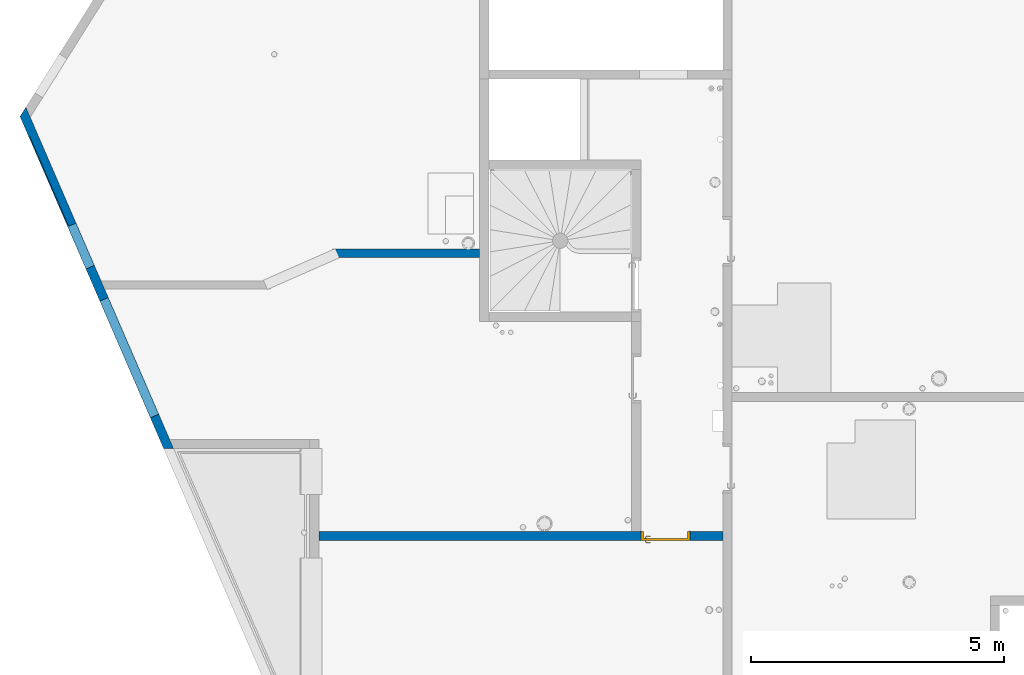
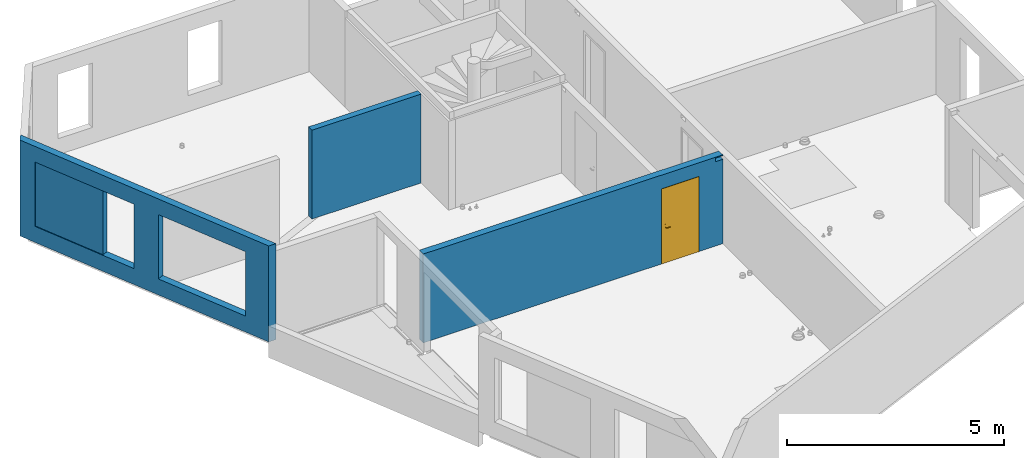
# One storey, part 3 of 24: 3 walls, 1 door, 7 openings.
"""IFC2X3 building model written with IfcOpenShell, lengths in centimetres."""

import ifcopenshell
import ifcopenshell.guid

model = None  # the IFC model being written
_history = None  # IfcOwnerHistory: only IFC2X3 demands one
_inside = {}  # id of a spatial element -> (the spatial element, [elements in it])
_under = {}  # id of a project, library or spatial element -> (it, [spatial elements below it])
_declared = {}  # id of a project -> (the project, [libraries it declares])
_typed = {}  # id of a type object -> (the type object, [elements of that type])
_made_of = {}  # id of a material, layer set ... -> (it, [elements and type objects made of it])


def new_model(schema):
    """Start an empty IFC model of exactly this schema.

    Asked for "IFC4X3", IfcOpenShell would pick the latest addendum, in which some entities
    have other attributes; the version numbers below select the first issue.
    IFC2X3 requires an IfcOwnerHistory on every rooted entity: one is made here for all.
    """
    global model, _history
    if schema == "IFC4X3":
        model = ifcopenshell.file(schema_version=(4, 3, 0, 0))
    else:
        model = ifcopenshell.file(schema=schema)
    _inside.clear()
    _under.clear()
    _declared.clear()
    _typed.clear()
    _made_of.clear()
    _history = None
    if model.schema == "IFC2X3":
        org = make("IfcOrganization", Name="unknown")
        user = make(
            "IfcPersonAndOrganization",
            ThePerson=make("IfcPerson", FamilyName="unknown"),
            TheOrganization=org,
        )
        app = make(
            "IfcApplication",
            ApplicationDeveloper=org,
            Version="unknown",
            ApplicationFullName="unknown",
            ApplicationIdentifier="unknown",
        )
        _history = make(
            "IfcOwnerHistory",
            OwningUser=user,
            OwningApplication=app,
            ChangeAction="ADDED",
            CreationDate=0,
        )
    return model


def make(cls, **values):
    """One entity of the class cls with the attributes given. An attribute that is None is left unset."""
    return model.create_entity(
        cls, **{name: value for name, value in values.items() if value is not None}
    )


def entity(cls, *values):
    """Any entity or typed value of the class cls, its attributes in the order of the schema. None: left unset."""
    e = model.create_entity(cls)
    for i, value in enumerate(values):
        if value is not None:
            e[i] = value
    return e


def rooted(cls, **values):
    """An entity with a GlobalId (a new one), such as an element, a storey or a relation."""
    return make(cls, GlobalId=ifcopenshell.guid.new(), OwnerHistory=_history, **values)


def si_unit(unit_type, name, prefix=None):
    """IfcSIUnit, for example si_unit("LENGTHUNIT", "METRE", prefix="MILLI")."""
    return make("IfcSIUnit", UnitType=unit_type, Prefix=prefix, Name=name)


def converted_unit(unit_type, name, factor, base, dimensions=None, offset=None):
    """IfcConversionBasedUnit, such as the inch: factor (a typed value) times the base unit."""
    return make(
        "IfcConversionBasedUnit"
        if offset is None
        else "IfcConversionBasedUnitWithOffset",
        ConversionOffset=offset,
        Dimensions=None
        if dimensions is None
        else entity("IfcDimensionalExponents", *dimensions),
        UnitType=unit_type,
        Name=name,
        ConversionFactor=make(
            "IfcMeasureWithUnit", ValueComponent=factor, UnitComponent=base
        ),
    )


def derived_unit(unit_type, elements):
    """IfcDerivedUnit: a product of units, each with its exponent."""
    return make(
        "IfcDerivedUnit",
        Elements=[
            make("IfcDerivedUnitElement", Unit=unit, Exponent=power)
            for unit, power in elements
        ],
        UnitType=unit_type,
    )


def assignment(units):
    """IfcUnitAssignment: the units of a project."""
    return None if units is None else make("IfcUnitAssignment", Units=units)


def point(xyz):
    """IfcCartesianPoint."""
    return None if xyz is None else make("IfcCartesianPoint", Coordinates=xyz)


def direction(xyz):
    """IfcDirection."""
    return None if xyz is None else make("IfcDirection", DirectionRatios=xyz)


def frame(location, z_axis=None, x_axis=None):
    """IfcAxis2Placement3D, a coordinate frame: its origin and axes. An axis left out is left unset."""
    return make(
        "IfcAxis2Placement3D",
        Location=point(location),
        Axis=direction(z_axis),
        RefDirection=direction(x_axis),
    )


def frame_2d(location, x_axis=None):
    """IfcAxis2Placement2D, a coordinate frame in the plane: its origin and x axis."""
    return make(
        "IfcAxis2Placement2D", Location=point(location), RefDirection=direction(x_axis)
    )


def origin():
    """The frame at (0, 0, 0) with its axes left unset."""
    return frame((0.0, 0.0, 0.0))


def place(relative_to, where):
    """IfcLocalPlacement: puts the frame where relative to a parent placement (None: the world)."""
    return make(
        "IfcLocalPlacement", PlacementRelTo=relative_to, RelativePlacement=where
    )


def context(
    kind, dimensions, precision=None, world=None, true_north=None, identifier=None
):
    """IfcGeometricRepresentationContext, for example the 3D "Model" context."""
    return make(
        "IfcGeometricRepresentationContext",
        ContextIdentifier=identifier,
        ContextType=kind,
        CoordinateSpaceDimension=dimensions,
        Precision=precision,
        WorldCoordinateSystem=world,
        TrueNorth=true_north,
    )


def subcontext(parent, identifier, kind, view, scale=None):
    """IfcGeometricRepresentationSubContext, for example "Body" below "Model"."""
    return make(
        "IfcGeometricRepresentationSubContext",
        ContextIdentifier=identifier,
        ContextType=kind,
        ParentContext=parent,
        TargetScale=scale,
        TargetView=view,
    )


def project(units=None, contexts=None):
    """IfcProject with its units and contexts."""
    return rooted(
        "IfcProject",
        Name="project",
        RepresentationContexts=contexts,
        UnitsInContext=assignment(units),
    )


def spatial(cls, under=None, at=None, **own):
    """A site, building, storey or space (cls), placed at a placement, below another one or the project."""
    s = rooted(cls, ObjectPlacement=at, **own)
    if under is not None:
        _under.setdefault(under.id(), (under, []))[1].append(s)
    return s


def polyline(points):
    """IfcPolyline through the points."""
    return make("IfcPolyline", Points=[point(p) for p in points])


def profile(cls, at=None, kind="AREA", **sizes):
    """A parametric profile (cls). Its sizes go by their IFC names, for example OverallWidth=200.0."""
    return make(cls, ProfileType=kind, Position=at, **sizes)


def rectangle(**sizes):
    """IfcRectangleProfileDef."""
    return profile("IfcRectangleProfileDef", **sizes)


def outline(outer, holes=None, kind="AREA"):
    """IfcArbitraryClosedProfileDef: a profile drawn as a closed curve; with holes, ...WithVoids."""
    if holes is None:
        return make("IfcArbitraryClosedProfileDef", ProfileType=kind, OuterCurve=outer)
    return make(
        "IfcArbitraryProfileDefWithVoids",
        ProfileType=kind,
        OuterCurve=outer,
        InnerCurves=holes,
    )


def extrude(swept, where, along, depth):
    """IfcExtrudedAreaSolid: the profile swept, set in the frame where, extruded along a direction by depth."""
    return make(
        "IfcExtrudedAreaSolid",
        SweptArea=swept,
        Position=where,
        ExtrudedDirection=direction(along),
        Depth=depth,
    )


def faces_of(points, faces, orient=None, outer=None):
    """IfcFace entities. A face is a list of loops; a loop is a list of indices into points, from 0.

    orient and outer hold one flag for each loop. By default every Orientation is true, the
    first loop of a face is its IfcFaceOuterBound and the others are IfcFaceBound.
    """
    made = []
    for i, loops in enumerate(faces):
        bounds = []
        for j, loop in enumerate(loops):
            is_outer = j == 0 if outer is None else outer[i][j]
            bounds.append(
                make(
                    "IfcFaceOuterBound" if is_outer else "IfcFaceBound",
                    Bound=make("IfcPolyLoop", Polygon=[points[k] for k in loop]),
                    Orientation=True if orient is None else orient[i][j],
                )
            )
        made.append(make("IfcFace", Bounds=bounds))
    return made


def faceted_brep(points, faces, orient=None, outer=None, voids=None):
    """IfcFacetedBrep: a solid bounded by flat faces; with voids (closed shells), ...WithVoids."""
    shared = [point(p) for p in points]
    hull = make("IfcClosedShell", CfsFaces=faces_of(shared, faces, orient, outer))
    if voids is None:
        return make("IfcFacetedBrep", Outer=hull)
    return make(
        "IfcFacetedBrepWithVoids",
        Outer=hull,
        Voids=[
            make(cls, CfsFaces=faces_of(shared, fs, o, b)) for cls, fs, o, b in voids
        ],
    )


def shape(context_of_items, identifier, shape_type, items):
    """IfcShapeRepresentation: the items that make up one representation, for example the "Body"."""
    return make(
        "IfcShapeRepresentation",
        ContextOfItems=context_of_items,
        RepresentationIdentifier=identifier,
        RepresentationType=shape_type,
        Items=items,
    )


def source(mapping_origin, context_of_items, identifier, shape_type, items):
    """IfcRepresentationMap: a shape defined once, which mapped items show again and again."""
    return make(
        "IfcRepresentationMap",
        MappingOrigin=mapping_origin,
        MappedRepresentation=shape(context_of_items, identifier, shape_type, items),
    )


def transform(
    local_origin,
    x_axis=None,
    y_axis=None,
    z_axis=None,
    scale=None,
    scale2=None,
    scale3=None,
    uniform=True,
):
    """IfcCartesianTransformationOperator3D, or its non-uniform kind. x_axis, y_axis, z_axis: its Axis1, 2, 3."""
    if uniform:
        return make(
            "IfcCartesianTransformationOperator3D",
            Axis1=direction(x_axis),
            Axis2=direction(y_axis),
            LocalOrigin=point(local_origin),
            Scale=scale,
            Axis3=direction(z_axis),
        )
    return make(
        "IfcCartesianTransformationOperator3DnonUniform",
        Axis1=direction(x_axis),
        Axis2=direction(y_axis),
        LocalOrigin=point(local_origin),
        Scale=scale,
        Axis3=direction(z_axis),
        Scale2=scale2,
        Scale3=scale3,
    )


def mapped(mapping_source, mapping_target):
    """IfcMappedItem: shows the shape of a source again, moved by a transform."""
    return make(
        "IfcMappedItem", MappingSource=mapping_source, MappingTarget=mapping_target
    )


def material(Name=None, Category=None):
    """IfcMaterial."""
    return make("IfcMaterial", Name=Name, Category=Category)


def material_list(materials):
    """IfcMaterialList."""
    return make("IfcMaterialList", Materials=materials)


def layer(
    of_material, thickness, ventilated=None, Name=None, Category=None, Priority=None
):
    """IfcMaterialLayer: one layer of a wall or slab, of a material (None: an air gap)."""
    return make(
        "IfcMaterialLayer",
        Material=of_material,
        LayerThickness=thickness,
        IsVentilated=ventilated,
        Name=Name,
        Category=Category,
        Priority=Priority,
    )


def layer_set(layers, Name=None):
    """IfcMaterialLayerSet."""
    return make("IfcMaterialLayerSet", MaterialLayers=layers, LayerSetName=Name)


def layer_usage(for_layer_set, set_direction, sense, offset, extent=None):
    """IfcMaterialLayerSetUsage: how a layer set lies in its element."""
    return make(
        "IfcMaterialLayerSetUsage",
        ForLayerSet=for_layer_set,
        LayerSetDirection=set_direction,
        DirectionSense=sense,
        OffsetFromReferenceLine=offset,
        ReferenceExtent=extent,
    )


def made_of(thing, what):
    """Note that an element or type object is made of a material, layer set ...; save() writes the relation."""
    if what is not None:
        _made_of.setdefault(what.id(), (what, []))[1].append(thing)
    return thing


def type_object(cls, material=None, **own):
    """A type object (cls), such as IfcWallType, which elements share."""
    return made_of(rooted(cls, **own), material)


def type_shapes(of_type, sources):
    """Give a type object the sources (RepresentationMaps) that its elements show as mapped items."""
    of_type.RepresentationMaps = sources


def element(
    cls,
    number,
    at=None,
    inside=None,
    cuts=None,
    type_object=None,
    material=None,
    context=None,
    identifier="Body",
    shape_type=None,
    held_by="IfcProductDefinitionShape",
    body=None,
    shapes=None,
    **own,
):
    """One element of the class cls, such as IfcWall. Its Tag is "e" and its number.

    at: its placement. inside: the storey or other place that contains it. cuts: it is an
    opening in that element (IfcRelVoidsElement). A single representation is given by context,
    identifier, shape_type and body (its items); several are given by shapes. held_by: the class
    of the entity that holds the representations. save() writes the other relations.
    """
    e = rooted(cls, Tag="e%d" % number, ObjectPlacement=at, **own)
    if body is not None:
        shapes = [shape(context, identifier, shape_type, body)]
    if shapes is not None:
        e.Representation = make(held_by, Representations=shapes)
    if inside is not None:
        _inside.setdefault(inside.id(), (inside, []))[1].append(e)
    if cuts is not None:
        rooted(
            "IfcRelVoidsElement", RelatingBuildingElement=cuts, RelatedOpeningElement=e
        )
    if type_object is not None:
        _typed.setdefault(type_object.id(), (type_object, []))[1].append(e)
    return made_of(e, material)


def fill(opening, filler):
    """IfcRelFillsElement: the door or window that sits in an opening."""
    return rooted(
        "IfcRelFillsElement",
        RelatingOpeningElement=opening,
        RelatedBuildingElement=filler,
    )


def aggregate(whole, parts):
    """IfcRelAggregates: a whole, such as a stair, and the parts it consists of."""
    return rooted("IfcRelAggregates", RelatingObject=whole, RelatedObjects=parts)


def save(model, path):
    """Write the relations noted so far, then the file.

    IfcRelAggregates (storeys below a building ...), IfcRelContainedInSpatialStructure (elements
    in a storey), IfcRelDefinesByType, IfcRelAssociatesMaterial and IfcRelDeclares: one each for
    every whole, place, type object, material and project.
    """
    for whole, parts in _under.values():
        aggregate(whole, parts)
    for where, things in _inside.values():
        rooted(
            "IfcRelContainedInSpatialStructure",
            RelatedElements=things,
            RelatingStructure=where,
        )
    for kind, things in _typed.values():
        rooted("IfcRelDefinesByType", RelatedObjects=things, RelatingType=kind)
    for what, things in _made_of.values():
        rooted("IfcRelAssociatesMaterial", RelatedObjects=things, RelatingMaterial=what)
    for by, libraries in _declared.values():
        rooted("IfcRelDeclares", RelatingContext=by, RelatedDefinitions=libraries)
    model.write(path)


model = new_model("IFC2X3")

# Units and contexts
model_context = context("Model", 3, precision=0.001, world=origin(), true_north=direction((6.12303176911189e-17, 1.0)))
body_context = subcontext(model_context, "Body", "Model", "MODEL_VIEW")
ifc_project = project(units=[si_unit("LENGTHUNIT", "METRE", prefix="CENTI"), si_unit("AREAUNIT", "SQUARE_METRE"), si_unit("VOLUMEUNIT", "CUBIC_METRE"), converted_unit("PLANEANGLEUNIT", "DEGREE", entity("IfcRatioMeasure", 0.0174532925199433), si_unit("PLANEANGLEUNIT", "RADIAN"), dimensions=[0, 0, 0, 0, 0, 0, 0]), si_unit("MASSUNIT", "GRAM", prefix="KILO"), derived_unit("MASSDENSITYUNIT", [(si_unit("MASSUNIT", "GRAM", prefix="KILO"), 1), (si_unit("LENGTHUNIT", "METRE"), -3)]), si_unit("TIMEUNIT", "SECOND"), si_unit("FREQUENCYUNIT", "HERTZ"), si_unit("THERMODYNAMICTEMPERATUREUNIT", "DEGREE_CELSIUS"), derived_unit("THERMALTRANSMITTANCEUNIT", [(si_unit("MASSUNIT", "GRAM", prefix="KILO"), 1), (si_unit("THERMODYNAMICTEMPERATUREUNIT", "KELVIN"), -1), (si_unit("TIMEUNIT", "SECOND"), -3)]), derived_unit("VOLUMETRICFLOWRATEUNIT", [(si_unit("LENGTHUNIT", "METRE"), 3), (si_unit("TIMEUNIT", "SECOND"), -1)]), si_unit("ELECTRICCURRENTUNIT", "AMPERE"), si_unit("ELECTRICVOLTAGEUNIT", "VOLT"), si_unit("POWERUNIT", "WATT"), si_unit("FORCEUNIT", "NEWTON"), si_unit("ILLUMINANCEUNIT", "LUX"), si_unit("LUMINOUSFLUXUNIT", "LUMEN"), si_unit("LUMINOUSINTENSITYUNIT", "CANDELA"), derived_unit("USERDEFINED", [(si_unit("MASSUNIT", "GRAM", prefix="KILO"), -1), (si_unit("LENGTHUNIT", "METRE"), -2), (si_unit("TIMEUNIT", "SECOND"), 3), (si_unit("LUMINOUSFLUXUNIT", "LUMEN"), 1)]), derived_unit("LINEARVELOCITYUNIT", [(si_unit("LENGTHUNIT", "METRE"), 1), (si_unit("TIMEUNIT", "SECOND"), -1)]), si_unit("PRESSUREUNIT", "PASCAL"), derived_unit("USERDEFINED", [(si_unit("LENGTHUNIT", "METRE"), -2), (si_unit("MASSUNIT", "GRAM", prefix="KILO"), 1), (si_unit("TIMEUNIT", "SECOND"), -2)])], contexts=[model_context])

# Site, building, storey
site_placement = place(None, origin())
site = spatial("IfcSite", under=ifc_project, at=site_placement, Name="Default", CompositionType="ELEMENT")
building_placement = place(site_placement, origin())
building = spatial("IfcBuilding", under=site, at=building_placement, Name="CAGE 03", CompositionType="ELEMENT")
storey_placement = place(building_placement, frame((0.0, 0.0, 1150.0)))
storey = spatial("IfcBuildingStorey", under=building, at=storey_placement, Name="R+4", CompositionType="ELEMENT", Elevation=1150.0)

# Wall, openings
ifc_material_1 = material(Name="Béton, C25/30")
ifc_layer_1 = layer(ifc_material_1, 18.0)
ifc_layer_set_1 = layer_set([ifc_layer_1], Name="Mur de base:Voile BA 18")
ifc_layer_usage_1 = layer_usage(ifc_layer_set_1, "AXIS2", "NEGATIVE", 9.0)
wall_type_1 = type_object("IfcWallType", Name="Mur de base:Voile BA 18", PredefinedType="STANDARD", material=ifc_layer_set_1)
wall_1_placement = place(storey_placement, frame((3041.89066051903, 4378.08671008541, 0.0), z_axis=(0.0, 0.0, 1.0), x_axis=(-0.397106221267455, 0.917772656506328, 0.0)))
wall_1 = element("IfcWallStandardCase", 1, at=wall_1_placement, inside=storey, type_object=wall_type_1, material=ifc_layer_usage_1, Name="Mur de base:Voile BA 18", ObjectType="Mur de base:Voile BA 18", context=body_context, shape_type="SweptSolid", body=[
    extrude(outline(polyline([(734.097941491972, -9.0), (721.737983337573, 9.0), (27.401025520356, 9.0), (7.78832528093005, 9.0), (0.0, -9.0), (19.6127002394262, -9.0), (343.222254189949, -9.0), (360.655765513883, -9.0), (712.262910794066, -9.0), (734.097941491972, -9.0)])), origin(), (0.0, 0.0, 1.0), 270.0),
])
opening_1_placement = place(wall_1_placement, origin())
element("IfcOpeningElement", 2, at=opening_1_placement, cuts=wall_1, Name="Mur de base:Voile BA 18", ObjectType="Recess", context=body_context, shape_type="SweptSolid", body=[
    extrude(rectangle(XDim=181.0, YDim=194.0, at=frame_2d((0.0, -1.06581410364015e-13), x_axis=(0.0, 1.0))), frame((581.787584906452, 7.0, 135.5), z_axis=(0.0, 1.0, 0.0), x_axis=(1.0, 0.0, 0.0)), (0.0, 0.0, 1.0), 2.00000000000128),
])
opening_2_placement = place(wall_1_placement, origin())
element("IfcOpeningElement", 3, at=opening_2_placement, cuts=wall_1, Name="Mur de base:Voile BA 18", ObjectType="Recess", context=body_context, shape_type="SweptSolid", body=[
    extrude(rectangle(XDim=181.0, YDim=184.0, at=frame_2d((-2.91322521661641e-13, -1.06581410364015e-13), x_axis=(0.0, 1.0))), frame((-823.712415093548, 7.0, 135.5), z_axis=(0.0, 1.0, 0.0), x_axis=(1.0, 0.0, 0.0)), (0.0, 0.0, 1.0), 2.00000000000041),
])
opening_3_placement = place(wall_1_placement, origin())
element("IfcOpeningElement", 4, at=opening_3_placement, cuts=wall_1, Name="Mur de base:Voile BA 18", ObjectType="Recess", context=body_context, shape_type="SweptSolid", body=[
    extrude(rectangle(XDim=181.0, YDim=194.0, at=frame_2d((0.0, -1.06581410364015e-13), x_axis=(0.0, 1.0))), frame((-1172.71241509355, 7.0, 135.5), z_axis=(0.0, 1.0, 0.0), x_axis=(1.0, 0.0, 0.0)), (0.0, 0.0, 1.0), 2.00000000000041),
])
opening_4_placement = place(wall_1_placement, frame((-2810.13456462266, 4530.32954212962, 0.0), z_axis=(0.0, 0.0, 1.0), x_axis=(-0.397106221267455, -0.917772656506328, 0.0)))
element("IfcOpeningElement", 5, at=opening_4_placement, cuts=wall_1, Name="Mur de base:Voile BA 18", ObjectType="Opening", context=body_context, shape_type="SweptSolid", body=[
    extrude(rectangle(XDim=181.0, YDim=91.0, at=frame_2d((-2.1316282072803e-13, -8.88178419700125e-14), x_axis=(1.0, 0.0))), frame((2999.05542657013, 4838.197875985, 135.5), z_axis=(-0.917772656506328, -0.397106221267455, 0.0), x_axis=(0.0, 0.0, 1.0)), (0.0, 0.0, 1.0), 304.8),
])
opening_5_placement = place(wall_1_placement, frame((-2810.13456462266, 4530.32954212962, 0.0), z_axis=(0.0, 0.0, 1.0), x_axis=(-0.397106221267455, -0.917772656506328, 0.0)))
element("IfcOpeningElement", 6, at=opening_5_placement, cuts=wall_1, Name="Mur de base:Voile BA 18", ObjectType="Opening", context=body_context, shape_type="SweptSolid", body=[
    extrude(rectangle(XDim=181.0, YDim=251.0, at=frame_2d((-2.1316282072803e-13, 4.05009359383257e-13), x_axis=(1.0, 0.0))), frame((3094.36091967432, 4617.93243842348, 135.5), z_axis=(-0.917772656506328, -0.397106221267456, 0.0), x_axis=(0.0, 0.0, 1.0)), (0.0, 0.0, 1.0), 304.8),
])

# Wall, openings, door
ifc_layer_usage_2 = layer_usage(ifc_layer_set_1, "AXIS2", "NEGATIVE", 9.0)
wall_2_placement = place(storey_placement, frame((4134.36582014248, 4209.16066607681, 0.0), z_axis=(0.0, 0.0, 1.0), x_axis=(-1.0, 0.0, 0.0)))
wall_2 = element("IfcWallStandardCase", 7, at=wall_2_placement, inside=storey, type_object=wall_type_1, material=ifc_layer_usage_2, Name="Mur de base:Voile BA 18", ObjectType="Mur de base:Voile BA 18", context=body_context, shape_type="SweptSolid", body=[
    extrude(rectangle(XDim=797.499999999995, YDim=17.9999999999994, at=frame_2d((398.749999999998, -2.65565347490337e-13), x_axis=(-1.0, 0.0))), origin(), (0.0, 0.0, 1.0), 250.0),
])
opening_6_placement = place(wall_2_placement, origin())
element("IfcOpeningElement", 8, at=opening_6_placement, cuts=wall_2, Name="Mur de base:Voile BA 18", ObjectType="Opening", context=body_context, shape_type="SweptSolid", body=[
    extrude(rectangle(XDim=10.0000000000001, YDim=19.9999999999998, at=frame_2d((4.33431068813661e-13, 1.08357767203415e-13), x_axis=(0.0, 1.0))), frame((10.0, -9.0, 242.500000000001), z_axis=(0.0, 1.0, 0.0), x_axis=(1.0, 0.0, 0.0)), (0.0, 0.0, 1.0), 17.9999999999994),
])
opening_7_placement = place(wall_2_placement, frame((65.0, -9.0, 0.0)))
opening_7 = element("IfcOpeningElement", 9, at=opening_7_placement, cuts=wall_2, Name="Int. Simple:HB93:1", ObjectType="Opening", context=body_context, shape_type="SweptSolid", body=[
    extrude(rectangle(XDim=210.000000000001, YDim=96.9999999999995, at=frame_2d((105.000000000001, 48.4999999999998), x_axis=(1.0, 0.0))), frame((0.0, 0.0, 0.0), z_axis=(0.0, 1.0, 0.0), x_axis=(0.0, 0.0, 1.0)), (0.0, 0.0, 1.0), 18.0),
])
ifc_material_2 = material(Name="Finition Peinture - Blanc satiné")
ifc_material_3 = material(Name="Bois - Panneau de porte")
ifc_material_4 = material(Name="Bois - Cadre de porte")
ifc_material_list_1 = material_list([ifc_material_2, ifc_material_3, ifc_material_4])
ifc_material_list_2 = material_list([ifc_material_2, ifc_material_3, ifc_material_4])
door_style = type_object("IfcDoorStyle", Name="HB93", ConstructionType="NOTDEFINED", OperationType="SINGLE_SWING_LEFT", ParameterTakesPrecedence=False, Sizeable=False, material=ifc_material_list_2)
shared_shape = source(origin(), body_context, "Body", "Brep", [
    faceted_brep([(10.5352761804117, -0.500000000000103, 86.6003983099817), (11.5000000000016, -0.500000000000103, 87.0), (11.5000000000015, -0.500000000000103, 108.0), (10.5352761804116, -0.500000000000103, 108.399601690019), (9.50000000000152, -0.500000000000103, 108.535898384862), (8.46472381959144, -0.500000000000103, 108.399601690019), (7.50000000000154, -0.500000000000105, 108.0), (7.50000000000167, -0.500000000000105, 87.0), (8.46472381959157, -0.500000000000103, 86.6003983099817), (9.50000000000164, -0.500000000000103, 86.464101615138), (10.5352761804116, 0.0, 108.399601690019), (11.5000000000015, 0.0, 108.0), (11.5000000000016, 0.0, 87.0), (10.5352761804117, 0.0, 86.6003983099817), (9.50000000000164, 0.0, 86.464101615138), (8.46472381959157, 0.0, 86.6003983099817), (7.50000000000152, 0.0, 87.0), (7.50000000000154, 0.0, 108.0), (8.46472381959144, 0.0, 108.399601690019), (9.50000000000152, 0.0, 108.535898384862)], [[[0, 1, 2, 3, 4, 5, 6, 7, 8, 9]], [[10, 11, 12, 13, 14, 15, 16, 17, 18, 19]], [[16, 15, 8, 7]], [[8, 15, 14, 9]], [[14, 13, 0, 9]], [[13, 12, 1, 0]], [[2, 1, 12, 11]], [[11, 10, 3, 2]], [[3, 10, 19, 4]], [[19, 18, 5, 4]], [[18, 17, 6, 5]], [[7, 6, 17, 16]]]),
    faceted_brep([(10.5352761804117, 4.0, 86.6003983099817), (11.5000000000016, 4.0, 87.0), (11.5000000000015, 4.0, 108.0), (10.5352761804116, 4.0, 108.399601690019), (9.50000000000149, 4.0, 108.535898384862), (8.46472381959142, 4.0, 108.399601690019), (7.50000000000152, 4.0, 108.0), (7.50000000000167, 4.0, 87.0), (8.46472381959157, 4.0, 86.6003983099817), (9.50000000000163, 4.0, 86.464101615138), (10.5352761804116, 4.49999999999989, 108.399601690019), (11.5000000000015, 4.4999999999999, 108.0), (11.5000000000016, 4.4999999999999, 87.0), (10.5352761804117, 4.49999999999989, 86.6003983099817), (9.50000000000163, 4.49999999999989, 86.464101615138), (8.46472381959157, 4.49999999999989, 86.6003983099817), (7.50000000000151, 4.49999999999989, 87.0), (7.50000000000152, 4.49999999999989, 108.0), (8.46472381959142, 4.49999999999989, 108.399601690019), (9.50000000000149, 4.49999999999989, 108.535898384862)], [[[0, 1, 2, 3, 4, 5, 6, 7, 8, 9]], [[10, 11, 12, 13, 14, 15, 16, 17, 18, 19]], [[11, 10, 3, 2]], [[3, 10, 19, 4]], [[19, 18, 5, 4]], [[18, 17, 6, 5]], [[7, 6, 17, 16]], [[16, 15, 8, 7]], [[8, 15, 14, 9]], [[14, 13, 0, 9]], [[13, 12, 1, 0]], [[2, 1, 12, 11]]]),
    faceted_brep([(9.29747013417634, -0.500000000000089, 100.778044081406), (9.70252986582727, -0.500000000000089, 100.778044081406), (10.1000000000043, -0.500000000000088, 100.699999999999), (10.1000000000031, -0.500000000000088, 99.3000000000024), (9.70252986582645, -0.500000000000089, 99.2219559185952), (9.29747013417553, -0.500000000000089, 99.221955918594), (8.89999999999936, -0.500000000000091, 99.2999999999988), (8.89999999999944, -0.500000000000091, 100.7), (8.89999999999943, -3.26509507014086, 100.7), (9.29747013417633, -3.10045754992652, 100.778044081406), (10.9023585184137, -4.70534593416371, 100.778044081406), (11.0701397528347, -4.30028620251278, 100.778044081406), (9.70252986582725, -2.93267631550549, 100.778044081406), (10.1000000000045, -2.76803879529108, 100.7), (10.1000000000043, -2.76803879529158, 99.3000000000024), (9.70252986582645, -2.93267631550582, 99.2219559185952), (11.0701397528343, -4.30028620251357, 99.2219559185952), (10.9023585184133, -4.70534593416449, 99.221955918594), (9.29747013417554, -3.10045754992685, 99.221955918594), (8.89999999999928, -3.26509507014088, 99.2999999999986), (10.7377209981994, -5.1028160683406, 100.7), (11.2347772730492, -3.90281606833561, 100.7), (11.2347772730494, -3.90281606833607, 99.3000000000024), (10.7377209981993, -5.10281606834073, 99.2999999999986), (19.5018640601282, -5.1028160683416, 99.2999999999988), (19.5018640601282, -4.70534593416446, 99.221955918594), (19.5018640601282, -4.30028620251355, 99.2219559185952), (19.5018640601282, -3.90281606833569, 99.3000000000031), (19.5018640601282, -3.90281606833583, 100.7), (19.5018640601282, -4.30028620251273, 100.778044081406), (19.5018640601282, -4.70534593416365, 100.778044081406), (19.5018640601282, -5.10281606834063, 100.699999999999), (14.7307697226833, -5.10281606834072, 100.7), (15.28600190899, -4.5028160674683, 100.78786867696), (15.3683206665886, -3.9028160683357, 100.7), (15.3683206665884, -3.90281606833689, 99.3000000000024), (15.2860018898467, -4.50281607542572, 99.2121313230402), (14.7307700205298, -5.10281606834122, 99.2999999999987)], [[[0, 1, 2, 3, 4, 5, 6, 7]], [[8, 9, 0, 7]], [[9, 10, 11, 12, 1, 0]], [[12, 13, 2, 1]], [[3, 2, 13, 14]], [[14, 15, 4, 3]], [[15, 16, 17, 18, 5, 4]], [[18, 19, 6, 5]], [[7, 6, 19, 8]], [[20, 10, 9, 8]], [[11, 21, 13, 12]], [[14, 13, 21, 22]], [[22, 16, 15, 14]], [[17, 23, 19, 18]], [[8, 19, 23, 20]], [[24, 25, 26, 27, 28, 29, 30, 31]], [[32, 30, 33]], [[31, 30, 32]], [[10, 20, 32]], [[33, 34, 11]], [[21, 11, 34]], [[34, 29, 28]], [[30, 29, 33]], [[29, 34, 33]], [[10, 32, 33]], [[10, 33, 11]], [[22, 21, 34, 28, 27, 35]], [[35, 26, 36]], [[37, 36, 25]], [[22, 35, 16]], [[35, 27, 26]], [[24, 37, 25]], [[23, 17, 37]], [[37, 17, 36]], [[17, 16, 36]], [[16, 35, 36]], [[25, 36, 26]], [[20, 23, 37, 24, 31, 32]]]),
    faceted_brep([(9.29747013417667, 4.49999999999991, 100.778044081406), (8.89999999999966, 4.49999999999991, 100.7), (8.89999999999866, 4.49999999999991, 99.2999999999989), (9.2974701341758, 4.49999999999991, 99.221955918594), (9.70252986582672, 4.49999999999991, 99.2219559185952), (10.1000000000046, 4.49999999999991, 99.3000000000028), (10.1000000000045, 4.49999999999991, 100.7), (9.70252986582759, 4.49999999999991, 100.778044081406), (10.1000000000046, 6.7485204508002, 99.3000000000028), (10.1000000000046, 6.74852045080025, 100.7), (9.70252986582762, 6.91315797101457, 100.778044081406), (11.0838906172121, 8.29451872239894, 100.778044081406), (10.9161093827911, 8.69957845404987, 100.778044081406), (9.29747013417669, 7.0809392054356, 100.778044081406), (8.89999999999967, 7.24557672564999, 100.7), (8.89999999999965, 7.24557672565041, 99.2999999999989), (9.29747013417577, 7.08093920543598, 99.221955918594), (10.9161093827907, 8.69957845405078, 99.221955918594), (11.0838906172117, 8.29451872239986, 99.2219559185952), (9.7025298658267, 6.91315797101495, 99.2219559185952), (11.2485281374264, 7.89704858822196, 99.3000000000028), (11.2485281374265, 7.89704858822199, 100.7), (10.7514718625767, 9.0970485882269, 100.7), (10.751471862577, 9.0970485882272, 99.2999999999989), (19.504578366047, 7.89704858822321, 99.3000000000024), (19.504578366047, 8.29451872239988, 99.2219559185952), (19.504578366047, 8.6995784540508, 99.221955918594), (19.504578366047, 9.09704858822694, 99.2999999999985), (19.504578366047, 9.09704858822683, 100.7), (19.504578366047, 8.69957845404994, 100.778044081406), (19.504578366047, 8.29451872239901, 100.778044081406), (19.504578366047, 7.89704858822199, 100.7), (15.3765520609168, 7.89704858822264, 99.3000000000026), (15.3765532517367, 7.89704858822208, 100.7), (15.294234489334, 8.49704858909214, 100.78786867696), (14.7445205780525, 9.09704858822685, 100.7), (14.7445204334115, 9.09704858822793, 99.2999999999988), (15.2942345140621, 8.49704858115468, 99.2121313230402)], [[[0, 1, 2, 3, 4, 5, 6, 7]], [[6, 5, 8, 9]], [[9, 10, 7, 6]], [[10, 11, 12, 13, 0, 7]], [[13, 14, 1, 0]], [[2, 1, 14, 15]], [[15, 16, 3, 2]], [[16, 17, 18, 19, 4, 3]], [[19, 8, 5, 4]], [[9, 8, 20, 21]], [[21, 11, 10, 9]], [[12, 22, 14, 13]], [[15, 14, 22, 23]], [[23, 17, 16, 15]], [[18, 20, 8, 19]], [[24, 25, 26, 27, 28, 29, 30, 31]], [[21, 20, 32, 24, 31, 33]], [[33, 30, 34]], [[35, 34, 29]], [[21, 33, 11]], [[33, 31, 30]], [[28, 35, 29]], [[22, 12, 35]], [[35, 12, 34]], [[12, 11, 34]], [[11, 33, 34]], [[29, 34, 30]], [[22, 35, 28, 27, 36, 23]], [[36, 26, 37]], [[27, 26, 36]], [[17, 23, 36]], [[37, 32, 18]], [[20, 18, 32]], [[32, 25, 24]], [[26, 25, 37]], [[25, 32, 37]], [[17, 36, 37]], [[17, 37, 18]]]),
    faceted_brep([(3.50000000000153, 4.0, 206.5), (93.5000000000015, 4.0, 206.5), (93.5000000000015, 4.0, 0.0), (3.50000000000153, 4.0, 0.0), (3.50000000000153, 0.0, 206.5), (3.50000000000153, 0.0, 0.0), (93.5000000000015, 0.0, 0.0), (93.5000000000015, 0.0, 206.5)], [[[0, 1, 2, 3]], [[4, 5, 6, 7]], [[1, 0, 4, 7]], [[2, 1, 7, 6]], [[3, 2, 6, 5]], [[0, 3, 5, 4]]]),
    faceted_brep([(0.0, 0.0, 0.0), (0.0, 18.0, 0.0), (5.0, 18.0, 0.0), (5.0, 4.0, 0.0), (3.50000000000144, 4.0, 0.0), (3.50000000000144, 0.0, 0.0), (0.0, 0.0, 210.0), (0.0, 18.0, 210.0), (97.0, 18.0, 210.0), (97.0, 18.0, 0.0), (92.0, 18.0, 0.0), (92.0, 18.0, 205.0), (5.0, 18.0, 205.0), (5.0, 4.0, 205.0), (92.0, 4.0, 205.0), (92.0, 4.0, 0.0), (93.4999999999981, 4.0, 0.0), (93.4999999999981, 4.0, 206.5), (3.50000000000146, 4.0, 206.5), (3.50000000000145, 0.0, 206.5), (93.4999999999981, 0.0, 206.5), (93.4999999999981, 0.0, 0.0), (97.0, 0.0, 0.0), (97.0, 0.0, 210.0)], [[[0, 1, 2, 3, 4, 5]], [[1, 0, 6, 7]], [[2, 1, 7, 8, 9, 10, 11, 12]], [[3, 2, 12, 13]], [[4, 3, 13, 14, 15, 16, 17, 18]], [[5, 4, 18, 19]], [[0, 5, 19, 20, 21, 22, 23, 6]], [[8, 23, 22, 9]], [[22, 21, 16, 15, 10, 9]], [[14, 11, 10, 15]], [[20, 17, 16, 21]], [[7, 6, 23, 8]], [[13, 12, 11, 14]], [[19, 18, 17, 20]]]),
    faceted_brep([(1.5, 18.0, 0.0), (-1.49999999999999, 18.0, 0.0), (-1.49999999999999, 18.5000000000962, 0.0), (1.5, 18.5000000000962, 0.0), (1.5, 18.0, 208.500000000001), (95.4999999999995, 18.0, 208.500000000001), (95.4999999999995, 18.0, 0.0), (98.4999999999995, 18.0, 0.0), (98.4999999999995, 18.0, 211.500000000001), (-1.49999999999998, 18.0, 211.500000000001), (-1.49999999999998, 18.5000000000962, 211.500000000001), (98.4999999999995, 18.5000000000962, 211.500000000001), (98.4999999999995, 18.5000000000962, 0.0), (95.4999999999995, 18.5000000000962, 0.0), (95.4999999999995, 18.5000000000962, 208.500000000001), (1.50000000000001, 18.5000000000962, 208.500000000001)], [[[0, 1, 2, 3]], [[1, 0, 4, 5, 6, 7, 8, 9]], [[2, 1, 9, 10]], [[3, 2, 10, 11, 12, 13, 14, 15]], [[0, 3, 15, 4]], [[6, 13, 12, 7]], [[5, 14, 13, 6]], [[11, 8, 7, 12]], [[10, 9, 8, 11]], [[4, 15, 14, 5]]]),
    faceted_brep([(-1.49999999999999, -0.5, 0.0), (1.5, -0.5, 0.0), (1.5, -0.5, 208.500000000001), (95.4999999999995, -0.5, 208.500000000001), (95.4999999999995, -0.5, 0.0), (98.4999999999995, -0.5, 0.0), (98.4999999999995, -0.5, 211.500000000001), (-1.49999999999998, -0.5, 211.500000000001), (-1.49999999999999, 0.0, 0.0), (-1.49999999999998, 0.0, 211.500000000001), (1.5, 0.0, 0.0), (98.4999999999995, 0.0, 211.500000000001), (98.4999999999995, 0.0, 0.0), (95.4999999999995, 0.0, 0.0), (95.4999999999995, 0.0, 208.500000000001), (1.50000000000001, 0.0, 208.500000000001)], [[[0, 1, 2, 3, 4, 5, 6, 7]], [[8, 0, 7, 9]], [[10, 8, 9, 11, 12, 13, 14, 15]], [[1, 10, 15, 2]], [[3, 14, 13, 4]], [[11, 6, 5, 12]], [[9, 7, 6, 11]], [[2, 15, 14, 3]], [[4, 13, 12, 5]], [[1, 0, 8, 10]]]),
])
type_shapes(door_style, [shared_shape])
door_placement = place(opening_7_placement, frame((97.0, 18.0, 0.0), z_axis=(0.0, 0.0, 1.0), x_axis=(-1.0, 0.0, 0.0)))
door = element("IfcDoor", 10, at=door_placement, inside=storey, type_object=door_style, material=ifc_material_list_1, Name="Int. Simple:HB93", ObjectType="HB93", OverallHeight=210.000000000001, OverallWidth=96.9999999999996, context=body_context, shape_type="MappedRepresentation", body=[
    mapped(shared_shape, transform((0.0, 0.0, 0.0), scale=1.0)),
])
fill(opening_7, door)

# Wall
ifc_layer_2 = layer(ifc_material_1, 16.0)
ifc_layer_set_2 = layer_set([ifc_layer_2], Name="Mur de base:Voile BA 16")
ifc_layer_usage_3 = layer_usage(ifc_layer_set_2, "AXIS2", "POSITIVE", -8.0)
wall_type_2 = type_object("IfcWallType", Name="Mur de base:Voile BA 16", PredefinedType="STANDARD", material=ifc_layer_set_2)
wall_3_placement = place(storey_placement, frame((3363.36582014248, 4767.16066607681, 0.0)))
element("IfcWallStandardCase", 11, at=wall_3_placement, inside=storey, type_object=wall_type_2, material=ifc_layer_usage_3, Name="Mur de base:Voile BA 16", ObjectType="Mur de base:Voile BA 16", context=body_context, shape_type="SweptSolid", body=[
    extrude(rectangle(XDim=291.0, YDim=15.9999999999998, at=frame_2d((145.5, 5.72875080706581e-14), x_axis=(-1.0, 0.0))), origin(), (0.0, 0.0, 1.0), 250.0),
])

save(model, "model.ifc")
